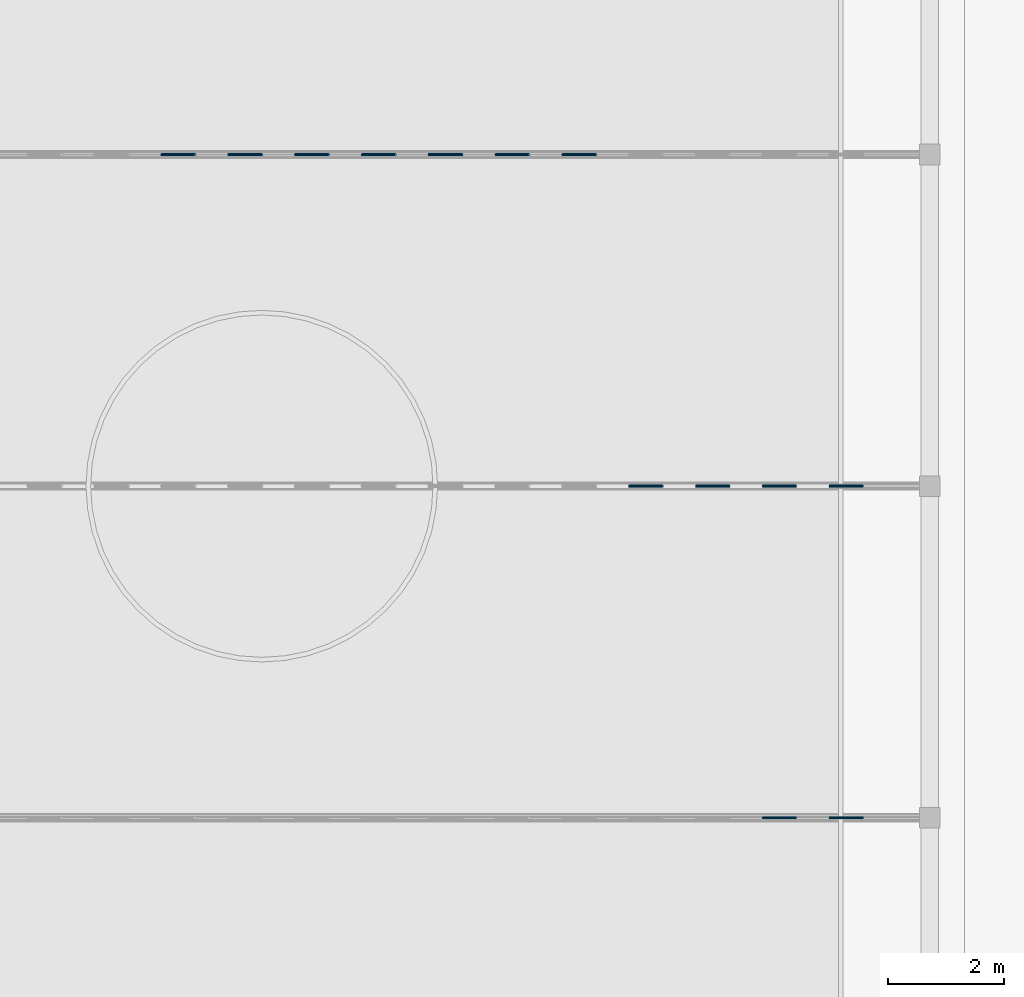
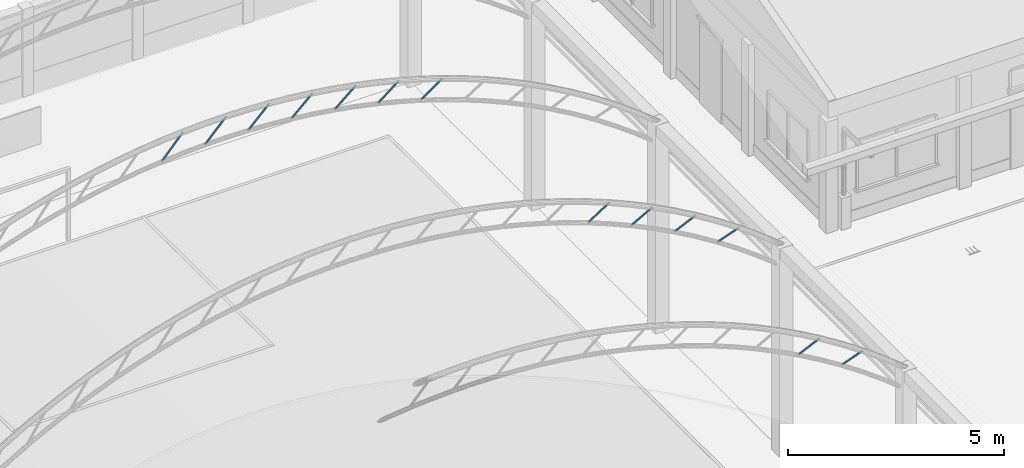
# One storey, part 28 of 166: 13 beams.
"""IFC2X3 building model written with IfcOpenShell, lengths in metres."""

from ifc_helpers import new_model, si_unit, origin, origin_with_axes, place, context, subcontext, project, spatial, faceted_brep, element, save


model = new_model("IFC2X3")

# Units and contexts
model_context = context("Model", 3, precision=1e-05, world=origin_with_axes())
body_context = subcontext(model_context, "Body", "Model", "MODEL_VIEW")
ifc_project = project(units=[si_unit("LENGTHUNIT", "METRE"), si_unit("AREAUNIT", "SQUARE_METRE"), si_unit("VOLUMEUNIT", "CUBIC_METRE"), si_unit("PLANEANGLEUNIT", "RADIAN")], contexts=[model_context])

# Site, building, storey
site_placement = place(None, origin_with_axes())
site = spatial("IfcSite", under=ifc_project, at=site_placement, Name="Predio Los Mangos - Morales, San Martín", CompositionType="ELEMENT")
building_placement = place(site_placement, origin())
building = spatial("IfcBuilding", under=site, at=building_placement, Name="Hogar de Refugio Temporal", CompositionType="ELEMENT")
storey_placement = place(building_placement, origin())
storey = spatial("IfcBuildingStorey", under=building, at=storey_placement, Name="NIVEL 1 (NPT +0.00)", CompositionType="ELEMENT", Elevation=0.0)

# Beams
beam_1_placement = place(storey_placement, origin())
element("IfcBeam", 1, at=beam_1_placement, inside=storey, Name="diag", ObjectType="Viga", context=body_context, shape_type="Brep", body=[
    faceted_brep([(23.7072, 104.0883, 7.3372), (24.2847, 104.0883, 7.6056), (24.29, 104.0917, 7.5943), (23.7125, 104.0917, 7.3259), (23.7034, 104.0792, 7.3455), (24.2809, 104.0792, 7.6139), (23.702, 104.0667, 7.3485), (24.2795, 104.0667, 7.617), (23.7034, 104.0542, 7.3455), (24.2809, 104.0542, 7.6139), (23.7072, 104.045, 7.3372), (24.2847, 104.045, 7.6056), (23.7125, 104.0417, 7.3259), (24.29, 104.0417, 7.5943), (23.7178, 104.045, 7.3145), (24.2953, 104.045, 7.583), (23.7216, 104.0542, 7.3062), (24.2991, 104.0542, 7.5747), (23.723, 104.0667, 7.3032), (24.3005, 104.0667, 7.5716), (23.7216, 104.0792, 7.3062), (24.2991, 104.0792, 7.5747), (23.7178, 104.0883, 7.3145), (24.2953, 104.0883, 7.583), (23.7116, 104.0704, 7.3278), (23.7125, 104.071, 7.3259), (24.29, 104.071, 7.5943), (24.2891, 104.0704, 7.5963), (23.7109, 104.0688, 7.3292), (24.2884, 104.0688, 7.5977), (23.7107, 104.0667, 7.3298), (24.2882, 104.0667, 7.5982), (23.7109, 104.0645, 7.3292), (24.2884, 104.0645, 7.5977), (23.7116, 104.0629, 7.3278), (24.2891, 104.0629, 7.5963), (23.7125, 104.0624, 7.3259), (24.29, 104.0624, 7.5943), (23.7134, 104.0629, 7.3239), (24.2909, 104.0629, 7.5924), (23.7141, 104.0645, 7.3225), (24.2916, 104.0645, 7.5909), (23.7143, 104.0667, 7.322), (24.2918, 104.0667, 7.5904), (23.7141, 104.0688, 7.3225), (24.2916, 104.0688, 7.5909), (23.7134, 104.0704, 7.3239), (24.2909, 104.0704, 7.5924)], [[[0, 1, 2, 3]], [[4, 5, 1, 0]], [[6, 7, 5, 4]], [[8, 9, 7, 6]], [[10, 11, 9, 8]], [[12, 13, 11, 10]], [[14, 15, 13, 12]], [[16, 17, 15, 14]], [[18, 19, 17, 16]], [[20, 21, 19, 18]], [[22, 23, 21, 20]], [[3, 2, 23, 22]], [[24, 25, 26, 27]], [[28, 24, 27, 29]], [[30, 28, 29, 31]], [[32, 30, 31, 33]], [[34, 32, 33, 35]], [[36, 34, 35, 37]], [[38, 36, 37, 39]], [[40, 38, 39, 41]], [[42, 40, 41, 43]], [[44, 42, 43, 45]], [[46, 44, 45, 47]], [[25, 46, 47, 26]], [[3, 22, 46, 25]], [[7, 9, 33, 31]], [[17, 19, 43, 41]], [[23, 2, 26, 47]], [[10, 8, 32, 34]], [[20, 18, 42, 44]], [[1, 5, 29, 27]], [[13, 15, 39, 37]], [[6, 4, 28, 30]], [[16, 14, 38, 40]], [[0, 3, 25, 24]], [[9, 11, 35, 33]], [[19, 21, 45, 43]], [[12, 10, 34, 36]], [[22, 20, 44, 46]], [[5, 7, 31, 29]], [[15, 17, 41, 39]], [[2, 1, 27, 26]], [[8, 6, 30, 32]], [[18, 16, 40, 42]], [[11, 13, 37, 35]], [[21, 23, 47, 45]], [[4, 0, 24, 28]], [[14, 12, 36, 38]]]),
])
beam_2_placement = place(storey_placement, origin())
element("IfcBeam", 2, at=beam_2_placement, inside=storey, Name="diag", ObjectType="Viga", context=body_context, shape_type="Brep", body=[
    faceted_brep([(24.8633, 104.0883, 6.6451), (25.4408, 104.0883, 6.8526), (25.445, 104.0917, 6.8408), (24.8675, 104.0917, 6.6333), (24.8602, 104.0792, 6.6537), (25.4377, 104.0792, 6.8612), (24.859, 104.0667, 6.6569), (25.4365, 104.0667, 6.8643), (24.8602, 104.0542, 6.6537), (25.4377, 104.0542, 6.8612), (24.8633, 104.045, 6.6451), (25.4408, 104.045, 6.8526), (24.8675, 104.0417, 6.6333), (25.445, 104.0417, 6.8408), (24.8717, 104.045, 6.6216), (25.4492, 104.045, 6.829), (24.8748, 104.0542, 6.613), (25.4523, 104.0542, 6.8204), (24.876, 104.0667, 6.6098), (25.4535, 104.0667, 6.8173), (24.8748, 104.0792, 6.613), (25.4523, 104.0792, 6.8204), (24.8717, 104.0883, 6.6216), (25.4492, 104.0883, 6.829), (24.8668, 104.0704, 6.6354), (24.8675, 104.071, 6.6333), (25.445, 104.071, 6.8408), (25.4443, 104.0704, 6.8428), (24.8662, 104.0688, 6.6368), (25.4437, 104.0688, 6.8443), (24.866, 104.0667, 6.6374), (25.4435, 104.0667, 6.8449), (24.8662, 104.0645, 6.6368), (25.4437, 104.0645, 6.8443), (24.8668, 104.0629, 6.6354), (25.4443, 104.0629, 6.8428), (24.8675, 104.0624, 6.6333), (25.445, 104.0624, 6.8408), (24.8682, 104.0629, 6.6313), (25.4457, 104.0629, 6.8388), (24.8688, 104.0645, 6.6298), (25.4463, 104.0645, 6.8373), (24.869, 104.0667, 6.6293), (25.4465, 104.0667, 6.8368), (24.8688, 104.0688, 6.6298), (25.4463, 104.0688, 6.8373), (24.8682, 104.0704, 6.6313), (25.4457, 104.0704, 6.8388)], [[[0, 1, 2, 3]], [[4, 5, 1, 0]], [[6, 7, 5, 4]], [[8, 9, 7, 6]], [[10, 11, 9, 8]], [[12, 13, 11, 10]], [[14, 15, 13, 12]], [[16, 17, 15, 14]], [[18, 19, 17, 16]], [[20, 21, 19, 18]], [[22, 23, 21, 20]], [[3, 2, 23, 22]], [[24, 25, 26, 27]], [[28, 24, 27, 29]], [[30, 28, 29, 31]], [[32, 30, 31, 33]], [[34, 32, 33, 35]], [[36, 34, 35, 37]], [[38, 36, 37, 39]], [[40, 38, 39, 41]], [[42, 40, 41, 43]], [[44, 42, 43, 45]], [[46, 44, 45, 47]], [[25, 46, 47, 26]], [[8, 6, 30, 32]], [[18, 16, 40, 42]], [[11, 13, 37, 35]], [[21, 23, 47, 45]], [[4, 0, 24, 28]], [[14, 12, 36, 38]], [[3, 22, 46, 25]], [[7, 9, 33, 31]], [[17, 19, 43, 41]], [[23, 2, 26, 47]], [[10, 8, 32, 34]], [[20, 18, 42, 44]], [[1, 5, 29, 27]], [[13, 15, 39, 37]], [[6, 4, 28, 30]], [[16, 14, 38, 40]], [[0, 3, 25, 24]], [[9, 11, 35, 33]], [[19, 21, 45, 43]], [[12, 10, 34, 36]], [[22, 20, 44, 46]], [[5, 7, 31, 29]], [[15, 17, 41, 39]], [[2, 1, 27, 26]]]),
])
beam_3_placement = place(storey_placement, origin())
element("IfcBeam", 3, at=beam_3_placement, inside=storey, Name="diag", ObjectType="Viga", context=body_context, shape_type="Brep", body=[
    faceted_brep([(21.3958, 109.8217, 8.401), (21.9733, 109.8217, 8.7715), (21.98, 109.825, 8.7609), (21.4025, 109.825, 8.3905), (21.3908, 109.8125, 8.4087), (21.9683, 109.8125, 8.7792), (21.389, 109.8, 8.4115), (21.9665, 109.8, 8.782), (21.3908, 109.7875, 8.4087), (21.9683, 109.7875, 8.7792), (21.3958, 109.7784, 8.401), (21.9733, 109.7784, 8.7715), (21.4025, 109.775, 8.3905), (21.98, 109.775, 8.7609), (21.4092, 109.7784, 8.38), (21.9867, 109.7784, 8.7504), (21.4142, 109.7875, 8.3723), (21.9917, 109.7875, 8.7427), (21.416, 109.8, 8.3695), (21.9935, 109.8, 8.7399), (21.4142, 109.8125, 8.3723), (21.9917, 109.8125, 8.7427), (21.4092, 109.8217, 8.38), (21.9867, 109.8217, 8.7504), (21.4013, 109.8037, 8.3923), (21.4025, 109.8043, 8.3905), (21.98, 109.8043, 8.7609), (21.9788, 109.8037, 8.7627), (21.4005, 109.8021, 8.3936), (21.978, 109.8021, 8.7641), (21.4002, 109.8, 8.3941), (21.9777, 109.8, 8.7645), (21.4005, 109.7979, 8.3936), (21.978, 109.7979, 8.7641), (21.4013, 109.7963, 8.3923), (21.9788, 109.7963, 8.7627), (21.4025, 109.7957, 8.3905), (21.98, 109.7957, 8.7609), (21.4037, 109.7963, 8.3887), (21.9812, 109.7963, 8.7591), (21.4045, 109.7979, 8.3874), (21.982, 109.7979, 8.7578), (21.4048, 109.8, 8.3869), (21.9823, 109.8, 8.7573), (21.4045, 109.8021, 8.3874), (21.982, 109.8021, 8.7578), (21.4037, 109.8037, 8.3887), (21.9812, 109.8037, 8.7591)], [[[0, 1, 2, 3]], [[4, 5, 1, 0]], [[6, 7, 5, 4]], [[8, 9, 7, 6]], [[10, 11, 9, 8]], [[12, 13, 11, 10]], [[14, 15, 13, 12]], [[16, 17, 15, 14]], [[18, 19, 17, 16]], [[20, 21, 19, 18]], [[22, 23, 21, 20]], [[3, 2, 23, 22]], [[24, 25, 26, 27]], [[28, 24, 27, 29]], [[30, 28, 29, 31]], [[32, 30, 31, 33]], [[34, 32, 33, 35]], [[36, 34, 35, 37]], [[38, 36, 37, 39]], [[40, 38, 39, 41]], [[42, 40, 41, 43]], [[44, 42, 43, 45]], [[46, 44, 45, 47]], [[25, 46, 47, 26]], [[11, 13, 37, 35]], [[21, 23, 47, 45]], [[4, 0, 24, 28]], [[14, 12, 36, 38]], [[3, 22, 46, 25]], [[7, 9, 33, 31]], [[17, 19, 43, 41]], [[23, 2, 26, 47]], [[10, 8, 32, 34]], [[20, 18, 42, 44]], [[1, 5, 29, 27]], [[13, 15, 39, 37]], [[6, 4, 28, 30]], [[16, 14, 38, 40]], [[0, 3, 25, 24]], [[9, 11, 35, 33]], [[19, 21, 45, 43]], [[12, 10, 34, 36]], [[22, 20, 44, 46]], [[5, 7, 31, 29]], [[15, 17, 41, 39]], [[2, 1, 27, 26]], [[8, 6, 30, 32]], [[18, 16, 40, 42]]]),
])
beam_4_placement = place(storey_placement, origin())
element("IfcBeam", 4, at=beam_4_placement, inside=storey, Name="diag", ObjectType="Viga", context=body_context, shape_type="Brep", body=[
    faceted_brep([(22.5514, 109.8217, 7.9187), (23.1289, 109.8217, 8.2407), (23.135, 109.825, 8.2298), (22.5575, 109.825, 7.9077), (22.547, 109.8125, 7.9267), (23.1245, 109.8125, 8.2487), (22.5453, 109.8, 7.9296), (23.1228, 109.8, 8.2517), (22.547, 109.7875, 7.9267), (23.1245, 109.7875, 8.2487), (22.5514, 109.7784, 7.9187), (23.1289, 109.7784, 8.2407), (22.5575, 109.775, 7.9077), (23.135, 109.775, 8.2298), (22.5636, 109.7784, 7.8968), (23.1411, 109.7784, 8.2189), (22.568, 109.7875, 7.8888), (23.1455, 109.7875, 8.2109), (22.5697, 109.8, 7.8859), (23.1472, 109.8, 8.208), (22.568, 109.8125, 7.8888), (23.1455, 109.8125, 8.2109), (22.5636, 109.8217, 7.8968), (23.1411, 109.8217, 8.2189), (22.5565, 109.8037, 7.9096), (22.5575, 109.8043, 7.9077), (23.135, 109.8043, 8.2298), (23.134, 109.8037, 8.2317), (22.5557, 109.8021, 7.911), (23.1332, 109.8021, 8.2331), (22.5554, 109.8, 7.9115), (23.1329, 109.8, 8.2336), (22.5557, 109.7979, 7.911), (23.1332, 109.7979, 8.2331), (22.5565, 109.7963, 7.9096), (23.134, 109.7963, 8.2317), (22.5575, 109.7957, 7.9077), (23.135, 109.7957, 8.2298), (22.5585, 109.7963, 7.9059), (23.136, 109.7963, 8.228), (22.5593, 109.7979, 7.9045), (23.1368, 109.7979, 8.2266), (22.5596, 109.8, 7.904), (23.1371, 109.8, 8.2261), (22.5593, 109.8021, 7.9045), (23.1368, 109.8021, 8.2266), (22.5585, 109.8037, 7.9059), (23.136, 109.8037, 8.228)], [[[0, 1, 2, 3]], [[4, 5, 1, 0]], [[6, 7, 5, 4]], [[8, 9, 7, 6]], [[10, 11, 9, 8]], [[12, 13, 11, 10]], [[14, 15, 13, 12]], [[16, 17, 15, 14]], [[18, 19, 17, 16]], [[20, 21, 19, 18]], [[22, 23, 21, 20]], [[3, 2, 23, 22]], [[24, 25, 26, 27]], [[28, 24, 27, 29]], [[30, 28, 29, 31]], [[32, 30, 31, 33]], [[34, 32, 33, 35]], [[36, 34, 35, 37]], [[38, 36, 37, 39]], [[40, 38, 39, 41]], [[42, 40, 41, 43]], [[44, 42, 43, 45]], [[46, 44, 45, 47]], [[25, 46, 47, 26]], [[11, 13, 37, 35]], [[21, 23, 47, 45]], [[4, 0, 24, 28]], [[14, 12, 36, 38]], [[3, 22, 46, 25]], [[7, 9, 33, 31]], [[17, 19, 43, 41]], [[23, 2, 26, 47]], [[10, 8, 32, 34]], [[20, 18, 42, 44]], [[1, 5, 29, 27]], [[13, 15, 39, 37]], [[6, 4, 28, 30]], [[16, 14, 38, 40]], [[0, 3, 25, 24]], [[9, 11, 35, 33]], [[19, 21, 45, 43]], [[12, 10, 34, 36]], [[22, 20, 44, 46]], [[5, 7, 31, 29]], [[15, 17, 41, 39]], [[2, 1, 27, 26]], [[8, 6, 30, 32]], [[18, 16, 40, 42]]]),
])
beam_5_placement = place(storey_placement, origin())
element("IfcBeam", 5, at=beam_5_placement, inside=storey, Name="diag", ObjectType="Viga", context=body_context, shape_type="Brep", body=[
    faceted_brep([(23.7072, 109.8217, 7.3372), (24.2847, 109.8217, 7.6056), (24.29, 109.825, 7.5943), (23.7125, 109.825, 7.3259), (23.7034, 109.8125, 7.3455), (24.2809, 109.8125, 7.6139), (23.702, 109.8, 7.3485), (24.2795, 109.8, 7.617), (23.7034, 109.7875, 7.3455), (24.2809, 109.7875, 7.6139), (23.7072, 109.7784, 7.3372), (24.2847, 109.7784, 7.6056), (23.7125, 109.775, 7.3259), (24.29, 109.775, 7.5943), (23.7178, 109.7784, 7.3145), (24.2953, 109.7784, 7.583), (23.7216, 109.7875, 7.3062), (24.2991, 109.7875, 7.5747), (23.723, 109.8, 7.3032), (24.3005, 109.8, 7.5716), (23.7216, 109.8125, 7.3062), (24.2991, 109.8125, 7.5747), (23.7178, 109.8217, 7.3145), (24.2953, 109.8217, 7.583), (23.7116, 109.8037, 7.3278), (23.7125, 109.8043, 7.3259), (24.29, 109.8043, 7.5943), (24.2891, 109.8037, 7.5963), (23.7109, 109.8021, 7.3292), (24.2884, 109.8021, 7.5977), (23.7107, 109.8, 7.3298), (24.2882, 109.8, 7.5982), (23.7109, 109.7979, 7.3292), (24.2884, 109.7979, 7.5977), (23.7116, 109.7963, 7.3278), (24.2891, 109.7963, 7.5963), (23.7125, 109.7957, 7.3259), (24.29, 109.7957, 7.5943), (23.7134, 109.7963, 7.3239), (24.2909, 109.7963, 7.5924), (23.7141, 109.7979, 7.3225), (24.2916, 109.7979, 7.5909), (23.7143, 109.8, 7.322), (24.2918, 109.8, 7.5904), (23.7141, 109.8021, 7.3225), (24.2916, 109.8021, 7.5909), (23.7134, 109.8037, 7.3239), (24.2909, 109.8037, 7.5924)], [[[0, 1, 2, 3]], [[4, 5, 1, 0]], [[6, 7, 5, 4]], [[8, 9, 7, 6]], [[10, 11, 9, 8]], [[12, 13, 11, 10]], [[14, 15, 13, 12]], [[16, 17, 15, 14]], [[18, 19, 17, 16]], [[20, 21, 19, 18]], [[22, 23, 21, 20]], [[3, 2, 23, 22]], [[24, 25, 26, 27]], [[28, 24, 27, 29]], [[30, 28, 29, 31]], [[32, 30, 31, 33]], [[34, 32, 33, 35]], [[36, 34, 35, 37]], [[38, 36, 37, 39]], [[40, 38, 39, 41]], [[42, 40, 41, 43]], [[44, 42, 43, 45]], [[46, 44, 45, 47]], [[25, 46, 47, 26]], [[11, 13, 37, 35]], [[21, 23, 47, 45]], [[4, 0, 24, 28]], [[14, 12, 36, 38]], [[3, 22, 46, 25]], [[7, 9, 33, 31]], [[17, 19, 43, 41]], [[23, 2, 26, 47]], [[10, 8, 32, 34]], [[20, 18, 42, 44]], [[1, 5, 29, 27]], [[13, 15, 39, 37]], [[6, 4, 28, 30]], [[16, 14, 38, 40]], [[0, 3, 25, 24]], [[9, 11, 35, 33]], [[19, 21, 45, 43]], [[12, 10, 34, 36]], [[22, 20, 44, 46]], [[5, 7, 31, 29]], [[15, 17, 41, 39]], [[2, 1, 27, 26]], [[8, 6, 30, 32]], [[18, 16, 40, 42]]]),
])
beam_6_placement = place(storey_placement, origin())
element("IfcBeam", 6, at=beam_6_placement, inside=storey, Name="diag", ObjectType="Viga", context=body_context, shape_type="Brep", body=[
    faceted_brep([(24.8633, 109.8217, 6.6451), (25.4408, 109.8217, 6.8526), (25.445, 109.825, 6.8408), (24.8675, 109.825, 6.6333), (24.8602, 109.8125, 6.6537), (25.4377, 109.8125, 6.8612), (24.859, 109.8, 6.6569), (25.4365, 109.8, 6.8643), (24.8602, 109.7875, 6.6537), (25.4377, 109.7875, 6.8612), (24.8633, 109.7784, 6.6451), (25.4408, 109.7784, 6.8526), (24.8675, 109.775, 6.6333), (25.445, 109.775, 6.8408), (24.8717, 109.7784, 6.6216), (25.4492, 109.7784, 6.829), (24.8748, 109.7875, 6.613), (25.4523, 109.7875, 6.8204), (24.876, 109.8, 6.6098), (25.4535, 109.8, 6.8173), (24.8748, 109.8125, 6.613), (25.4523, 109.8125, 6.8204), (24.8717, 109.8217, 6.6216), (25.4492, 109.8217, 6.829), (24.8668, 109.8037, 6.6354), (24.8675, 109.8043, 6.6333), (25.445, 109.8043, 6.8408), (25.4443, 109.8037, 6.8428), (24.8662, 109.8021, 6.6368), (25.4437, 109.8021, 6.8443), (24.866, 109.8, 6.6374), (25.4435, 109.8, 6.8449), (24.8662, 109.7979, 6.6368), (25.4437, 109.7979, 6.8443), (24.8668, 109.7963, 6.6354), (25.4443, 109.7963, 6.8428), (24.8675, 109.7957, 6.6333), (25.445, 109.7957, 6.8408), (24.8682, 109.7963, 6.6313), (25.4457, 109.7963, 6.8388), (24.8688, 109.7979, 6.6298), (25.4463, 109.7979, 6.8373), (24.869, 109.8, 6.6293), (25.4465, 109.8, 6.8368), (24.8688, 109.8021, 6.6298), (25.4463, 109.8021, 6.8373), (24.8682, 109.8037, 6.6313), (25.4457, 109.8037, 6.8388)], [[[0, 1, 2, 3]], [[4, 5, 1, 0]], [[6, 7, 5, 4]], [[8, 9, 7, 6]], [[10, 11, 9, 8]], [[12, 13, 11, 10]], [[14, 15, 13, 12]], [[16, 17, 15, 14]], [[18, 19, 17, 16]], [[20, 21, 19, 18]], [[22, 23, 21, 20]], [[3, 2, 23, 22]], [[24, 25, 26, 27]], [[28, 24, 27, 29]], [[30, 28, 29, 31]], [[32, 30, 31, 33]], [[34, 32, 33, 35]], [[36, 34, 35, 37]], [[38, 36, 37, 39]], [[40, 38, 39, 41]], [[42, 40, 41, 43]], [[44, 42, 43, 45]], [[46, 44, 45, 47]], [[25, 46, 47, 26]], [[7, 9, 33, 31]], [[17, 19, 43, 41]], [[23, 2, 26, 47]], [[10, 8, 32, 34]], [[20, 18, 42, 44]], [[1, 5, 29, 27]], [[13, 15, 39, 37]], [[6, 4, 28, 30]], [[16, 14, 38, 40]], [[0, 3, 25, 24]], [[9, 11, 35, 33]], [[19, 21, 45, 43]], [[12, 10, 34, 36]], [[22, 20, 44, 46]], [[5, 7, 31, 29]], [[15, 17, 41, 39]], [[2, 1, 27, 26]], [[8, 6, 30, 32]], [[18, 16, 40, 42]], [[11, 13, 37, 35]], [[21, 23, 47, 45]], [[4, 0, 24, 28]], [[14, 12, 36, 38]], [[3, 22, 46, 25]]]),
])
beam_7_placement = place(storey_placement, origin())
element("IfcBeam", 7, at=beam_7_placement, inside=storey, Name="diag", ObjectType="Viga", context=body_context, shape_type="Brep", body=[
    faceted_brep([(13.3082, 115.555, 9.4747), (13.8857, 115.555, 10.1212), (13.895, 115.5583, 10.1129), (13.3175, 115.5583, 9.4663), (13.3014, 115.5458, 9.4808), (13.8789, 115.5458, 10.1273), (13.2989, 115.5333, 9.483), (13.8764, 115.5333, 10.1295), (13.3014, 115.5208, 9.4808), (13.8789, 115.5208, 10.1273), (13.3082, 115.5117, 9.4747), (13.8857, 115.5117, 10.1212), (13.3175, 115.5083, 9.4663), (13.895, 115.5083, 10.1129), (13.3268, 115.5117, 9.458), (13.9043, 115.5117, 10.1045), (13.3336, 115.5208, 9.4519), (13.9111, 115.5208, 10.0984), (13.3361, 115.5333, 9.4497), (13.9136, 115.5333, 10.0962), (13.3336, 115.5458, 9.4519), (13.9111, 115.5458, 10.0984), (13.3268, 115.555, 9.458), (13.9043, 115.555, 10.1045), (13.3159, 115.5371, 9.4678), (13.3175, 115.5376, 9.4663), (13.895, 115.5376, 10.1129), (13.8934, 115.5371, 10.1143), (13.3147, 115.5355, 9.4688), (13.8922, 115.5355, 10.1153), (13.3143, 115.5333, 9.4692), (13.8918, 115.5333, 10.1157), (13.3147, 115.5312, 9.4688), (13.8922, 115.5312, 10.1153), (13.3159, 115.5296, 9.4678), (13.8934, 115.5296, 10.1143), (13.3175, 115.529, 9.4663), (13.895, 115.529, 10.1129), (13.3191, 115.5296, 9.4649), (13.8966, 115.5296, 10.1114), (13.3203, 115.5312, 9.4639), (13.8978, 115.5312, 10.1104), (13.3207, 115.5333, 9.4635), (13.8982, 115.5333, 10.11), (13.3203, 115.5355, 9.4639), (13.8978, 115.5355, 10.1104), (13.3191, 115.5371, 9.4649), (13.8966, 115.5371, 10.1114)], [[[0, 1, 2, 3]], [[4, 5, 1, 0]], [[6, 7, 5, 4]], [[8, 9, 7, 6]], [[10, 11, 9, 8]], [[12, 13, 11, 10]], [[14, 15, 13, 12]], [[16, 17, 15, 14]], [[18, 19, 17, 16]], [[20, 21, 19, 18]], [[22, 23, 21, 20]], [[3, 2, 23, 22]], [[24, 25, 26, 27]], [[28, 24, 27, 29]], [[30, 28, 29, 31]], [[32, 30, 31, 33]], [[34, 32, 33, 35]], [[36, 34, 35, 37]], [[38, 36, 37, 39]], [[40, 38, 39, 41]], [[42, 40, 41, 43]], [[44, 42, 43, 45]], [[46, 44, 45, 47]], [[25, 46, 47, 26]], [[18, 16, 40, 42]], [[11, 13, 37, 35]], [[21, 23, 47, 45]], [[4, 0, 24, 28]], [[14, 12, 36, 38]], [[3, 22, 46, 25]], [[7, 9, 33, 31]], [[17, 19, 43, 41]], [[23, 2, 26, 47]], [[10, 8, 32, 34]], [[20, 18, 42, 44]], [[1, 5, 29, 27]], [[13, 15, 39, 37]], [[6, 4, 28, 30]], [[16, 14, 38, 40]], [[0, 3, 25, 24]], [[9, 11, 35, 33]], [[19, 21, 45, 43]], [[12, 10, 34, 36]], [[22, 20, 44, 46]], [[5, 7, 31, 29]], [[15, 17, 41, 39]], [[2, 1, 27, 26]], [[8, 6, 30, 32]]]),
])
beam_8_placement = place(storey_placement, origin())
element("IfcBeam", 8, at=beam_8_placement, inside=storey, Name="diag", ObjectType="Viga", context=body_context, shape_type="Brep", body=[
    faceted_brep([(14.4634, 115.555, 9.5493), (15.0409, 115.555, 10.1586), (15.05, 115.5583, 10.15), (14.4725, 115.5583, 9.5407), (14.4568, 115.5458, 9.5556), (15.0343, 115.5458, 10.1649), (14.4544, 115.5333, 9.5579), (15.0319, 115.5333, 10.1672), (14.4568, 115.5208, 9.5556), (15.0343, 115.5208, 10.1649), (14.4634, 115.5117, 9.5493), (15.0409, 115.5117, 10.1586), (14.4725, 115.5083, 9.5407), (15.05, 115.5083, 10.15), (14.4816, 115.5117, 9.5321), (15.0591, 115.5117, 10.1414), (14.4882, 115.5208, 9.5258), (15.0657, 115.5208, 10.1351), (14.4906, 115.5333, 9.5235), (15.0681, 115.5333, 10.1328), (14.4882, 115.5458, 9.5258), (15.0657, 115.5458, 10.1351), (14.4816, 115.555, 9.5321), (15.0591, 115.555, 10.1414), (14.4709, 115.5371, 9.5422), (14.4725, 115.5376, 9.5407), (15.05, 115.5376, 10.15), (15.0484, 115.5371, 10.1515), (14.4698, 115.5355, 9.5433), (15.0473, 115.5355, 10.1526), (14.4694, 115.5333, 9.5437), (15.0469, 115.5333, 10.153), (14.4698, 115.5312, 9.5433), (15.0473, 115.5312, 10.1526), (14.4709, 115.5296, 9.5422), (15.0484, 115.5296, 10.1515), (14.4725, 115.529, 9.5407), (15.05, 115.529, 10.15), (14.4741, 115.5296, 9.5392), (15.0516, 115.5296, 10.1485), (14.4752, 115.5312, 9.5382), (15.0527, 115.5312, 10.1474), (14.4756, 115.5333, 9.5378), (15.0531, 115.5333, 10.147), (14.4752, 115.5355, 9.5382), (15.0527, 115.5355, 10.1474), (14.4741, 115.5371, 9.5392), (15.0516, 115.5371, 10.1485)], [[[0, 1, 2, 3]], [[4, 5, 1, 0]], [[6, 7, 5, 4]], [[8, 9, 7, 6]], [[10, 11, 9, 8]], [[12, 13, 11, 10]], [[14, 15, 13, 12]], [[16, 17, 15, 14]], [[18, 19, 17, 16]], [[20, 21, 19, 18]], [[22, 23, 21, 20]], [[3, 2, 23, 22]], [[24, 25, 26, 27]], [[28, 24, 27, 29]], [[30, 28, 29, 31]], [[32, 30, 31, 33]], [[34, 32, 33, 35]], [[36, 34, 35, 37]], [[38, 36, 37, 39]], [[40, 38, 39, 41]], [[42, 40, 41, 43]], [[44, 42, 43, 45]], [[46, 44, 45, 47]], [[25, 46, 47, 26]], [[18, 16, 40, 42]], [[11, 13, 37, 35]], [[21, 23, 47, 45]], [[4, 0, 24, 28]], [[14, 12, 36, 38]], [[3, 22, 46, 25]], [[7, 9, 33, 31]], [[17, 19, 43, 41]], [[23, 2, 26, 47]], [[10, 8, 32, 34]], [[20, 18, 42, 44]], [[1, 5, 29, 27]], [[13, 15, 39, 37]], [[6, 4, 28, 30]], [[16, 14, 38, 40]], [[0, 3, 25, 24]], [[9, 11, 35, 33]], [[19, 21, 45, 43]], [[12, 10, 34, 36]], [[22, 20, 44, 46]], [[5, 7, 31, 29]], [[15, 17, 41, 39]], [[2, 1, 27, 26]], [[8, 6, 30, 32]]]),
])
beam_9_placement = place(storey_placement, origin())
element("IfcBeam", 9, at=beam_9_placement, inside=storey, Name="diag", ObjectType="Viga", context=body_context, shape_type="Brep", body=[
    faceted_brep([(15.6187, 115.555, 9.5496), (16.1962, 115.555, 10.1217), (16.205, 115.5583, 10.1129), (15.6275, 115.5583, 9.5407), (15.6123, 115.5458, 9.5561), (16.1898, 115.5458, 10.1282), (15.6099, 115.5333, 9.5585), (16.1874, 115.5333, 10.1306), (15.6123, 115.5208, 9.5561), (16.1898, 115.5208, 10.1282), (15.6187, 115.5117, 9.5496), (16.1962, 115.5117, 10.1217), (15.6275, 115.5083, 9.5407), (16.205, 115.5083, 10.1129), (15.6363, 115.5117, 9.5318), (16.2138, 115.5117, 10.104), (15.6427, 115.5208, 9.5253), (16.2202, 115.5208, 10.0975), (15.6451, 115.5333, 9.523), (16.2226, 115.5333, 10.0951), (15.6427, 115.5458, 9.5253), (16.2202, 115.5458, 10.0975), (15.6363, 115.555, 9.5318), (16.2138, 115.555, 10.104), (15.626, 115.5371, 9.5422), (15.6275, 115.5376, 9.5407), (16.205, 115.5376, 10.1129), (16.2035, 115.5371, 10.1144), (15.6249, 115.5355, 9.5434), (16.2024, 115.5355, 10.1155), (15.6245, 115.5333, 9.5438), (16.202, 115.5333, 10.1159), (15.6249, 115.5312, 9.5434), (16.2024, 115.5312, 10.1155), (15.626, 115.5296, 9.5422), (16.2035, 115.5296, 10.1144), (15.6275, 115.529, 9.5407), (16.205, 115.529, 10.1129), (15.629, 115.5296, 9.5392), (16.2065, 115.5296, 10.1113), (15.6301, 115.5312, 9.5381), (16.2076, 115.5312, 10.1102), (15.6305, 115.5333, 9.5377), (16.208, 115.5333, 10.1098), (15.6301, 115.5355, 9.5381), (16.2076, 115.5355, 10.1102), (15.629, 115.5371, 9.5392), (16.2065, 115.5371, 10.1113)], [[[0, 1, 2, 3]], [[4, 5, 1, 0]], [[6, 7, 5, 4]], [[8, 9, 7, 6]], [[10, 11, 9, 8]], [[12, 13, 11, 10]], [[14, 15, 13, 12]], [[16, 17, 15, 14]], [[18, 19, 17, 16]], [[20, 21, 19, 18]], [[22, 23, 21, 20]], [[3, 2, 23, 22]], [[24, 25, 26, 27]], [[28, 24, 27, 29]], [[30, 28, 29, 31]], [[32, 30, 31, 33]], [[34, 32, 33, 35]], [[36, 34, 35, 37]], [[38, 36, 37, 39]], [[40, 38, 39, 41]], [[42, 40, 41, 43]], [[44, 42, 43, 45]], [[46, 44, 45, 47]], [[25, 46, 47, 26]], [[18, 16, 40, 42]], [[11, 13, 37, 35]], [[21, 23, 47, 45]], [[4, 0, 24, 28]], [[14, 12, 36, 38]], [[3, 22, 46, 25]], [[7, 9, 33, 31]], [[17, 19, 43, 41]], [[23, 2, 26, 47]], [[10, 8, 32, 34]], [[20, 18, 42, 44]], [[1, 5, 29, 27]], [[13, 15, 39, 37]], [[6, 4, 28, 30]], [[16, 14, 38, 40]], [[0, 3, 25, 24]], [[9, 11, 35, 33]], [[19, 21, 45, 43]], [[12, 10, 34, 36]], [[22, 20, 44, 46]], [[5, 7, 31, 29]], [[15, 17, 41, 39]], [[2, 1, 27, 26]], [[8, 6, 30, 32]]]),
])
beam_10_placement = place(storey_placement, origin())
element("IfcBeam", 10, at=beam_10_placement, inside=storey, Name="diag", ObjectType="Viga", context=body_context, shape_type="Brep", body=[
    faceted_brep([(16.774, 115.555, 9.4755), (17.3515, 115.555, 10.0102), (17.36, 115.5583, 10.001), (16.7825, 115.5583, 9.4663), (16.7678, 115.5458, 9.4822), (17.3453, 115.5458, 10.0169), (16.7655, 115.5333, 9.4847), (17.343, 115.5333, 10.0193), (16.7678, 115.5208, 9.4822), (17.3453, 115.5208, 10.0169), (16.774, 115.5117, 9.4755), (17.3515, 115.5117, 10.0102), (16.7825, 115.5083, 9.4663), (17.36, 115.5083, 10.001), (16.791, 115.5117, 9.4572), (17.3685, 115.5117, 9.9918), (16.7972, 115.5208, 9.4505), (17.3747, 115.5208, 9.9851), (16.7995, 115.5333, 9.448), (17.377, 115.5333, 9.9827), (16.7972, 115.5458, 9.4505), (17.3747, 115.5458, 9.9851), (16.791, 115.555, 9.4572), (17.3685, 115.555, 9.9918), (16.781, 115.5371, 9.4679), (16.7825, 115.5376, 9.4663), (17.36, 115.5376, 10.001), (17.3585, 115.5371, 10.0026), (16.78, 115.5355, 9.4691), (17.3575, 115.5355, 10.0037), (16.7796, 115.5333, 9.4695), (17.3571, 115.5333, 10.0042), (16.78, 115.5312, 9.4691), (17.3575, 115.5312, 10.0037), (16.781, 115.5296, 9.4679), (17.3585, 115.5296, 10.0026), (16.7825, 115.529, 9.4663), (17.36, 115.529, 10.001), (16.784, 115.5296, 9.4648), (17.3615, 115.5296, 9.9994), (16.785, 115.5312, 9.4636), (17.3625, 115.5312, 9.9983), (16.7854, 115.5333, 9.4632), (17.3629, 115.5333, 9.9979), (16.785, 115.5355, 9.4636), (17.3625, 115.5355, 9.9983), (16.784, 115.5371, 9.4648), (17.3615, 115.5371, 9.9994)], [[[0, 1, 2, 3]], [[4, 5, 1, 0]], [[6, 7, 5, 4]], [[8, 9, 7, 6]], [[10, 11, 9, 8]], [[12, 13, 11, 10]], [[14, 15, 13, 12]], [[16, 17, 15, 14]], [[18, 19, 17, 16]], [[20, 21, 19, 18]], [[22, 23, 21, 20]], [[3, 2, 23, 22]], [[24, 25, 26, 27]], [[28, 24, 27, 29]], [[30, 28, 29, 31]], [[32, 30, 31, 33]], [[34, 32, 33, 35]], [[36, 34, 35, 37]], [[38, 36, 37, 39]], [[40, 38, 39, 41]], [[42, 40, 41, 43]], [[44, 42, 43, 45]], [[46, 44, 45, 47]], [[25, 46, 47, 26]], [[18, 16, 40, 42]], [[11, 13, 37, 35]], [[21, 23, 47, 45]], [[4, 0, 24, 28]], [[14, 12, 36, 38]], [[3, 22, 46, 25]], [[7, 9, 33, 31]], [[17, 19, 43, 41]], [[23, 2, 26, 47]], [[10, 8, 32, 34]], [[20, 18, 42, 44]], [[1, 5, 29, 27]], [[13, 15, 39, 37]], [[6, 4, 28, 30]], [[16, 14, 38, 40]], [[0, 3, 25, 24]], [[9, 11, 35, 33]], [[19, 21, 45, 43]], [[12, 10, 34, 36]], [[22, 20, 44, 46]], [[5, 7, 31, 29]], [[15, 17, 41, 39]], [[2, 1, 27, 26]], [[8, 6, 30, 32]]]),
])
beam_11_placement = place(storey_placement, origin())
element("IfcBeam", 11, at=beam_11_placement, inside=storey, Name="diag", ObjectType="Viga", context=body_context, shape_type="Brep", body=[
    faceted_brep([(17.9294, 115.555, 9.3261), (18.5069, 115.555, 9.8225), (18.515, 115.5583, 9.813), (17.9375, 115.5583, 9.3166), (17.9234, 115.5458, 9.3331), (18.5009, 115.5458, 9.8294), (17.9212, 115.5333, 9.3356), (18.4987, 115.5333, 9.8319), (17.9234, 115.5208, 9.3331), (18.5009, 115.5208, 9.8294), (17.9294, 115.5117, 9.3261), (18.5069, 115.5117, 9.8225), (17.9375, 115.5083, 9.3166), (18.515, 115.5083, 9.813), (17.9456, 115.5117, 9.3072), (18.5231, 115.5117, 9.8035), (17.9516, 115.5208, 9.3002), (18.5291, 115.5208, 9.7966), (17.9538, 115.5333, 9.2977), (18.5313, 115.5333, 9.794), (17.9516, 115.5458, 9.3002), (18.5291, 115.5458, 9.7966), (17.9456, 115.555, 9.3072), (18.5231, 115.555, 9.8035), (17.9361, 115.5371, 9.3183), (17.9375, 115.5376, 9.3166), (18.515, 115.5376, 9.813), (18.5136, 115.5371, 9.8146), (17.9351, 115.5355, 9.3195), (18.5126, 115.5355, 9.8158), (17.9347, 115.5333, 9.3199), (18.5122, 115.5333, 9.8162), (17.9351, 115.5312, 9.3195), (18.5126, 115.5312, 9.8158), (17.9361, 115.5296, 9.3183), (18.5136, 115.5296, 9.8146), (17.9375, 115.529, 9.3166), (18.515, 115.529, 9.813), (17.9389, 115.5296, 9.315), (18.5164, 115.5296, 9.8114), (17.9399, 115.5312, 9.3138), (18.5174, 115.5312, 9.8102), (17.9403, 115.5333, 9.3134), (18.5178, 115.5333, 9.8097), (17.9399, 115.5355, 9.3138), (18.5174, 115.5355, 9.8102), (17.9389, 115.5371, 9.315), (18.5164, 115.5371, 9.8114)], [[[0, 1, 2, 3]], [[4, 5, 1, 0]], [[6, 7, 5, 4]], [[8, 9, 7, 6]], [[10, 11, 9, 8]], [[12, 13, 11, 10]], [[14, 15, 13, 12]], [[16, 17, 15, 14]], [[18, 19, 17, 16]], [[20, 21, 19, 18]], [[22, 23, 21, 20]], [[3, 2, 23, 22]], [[24, 25, 26, 27]], [[28, 24, 27, 29]], [[30, 28, 29, 31]], [[32, 30, 31, 33]], [[34, 32, 33, 35]], [[36, 34, 35, 37]], [[38, 36, 37, 39]], [[40, 38, 39, 41]], [[42, 40, 41, 43]], [[44, 42, 43, 45]], [[46, 44, 45, 47]], [[25, 46, 47, 26]], [[18, 16, 40, 42]], [[11, 13, 37, 35]], [[21, 23, 47, 45]], [[4, 0, 24, 28]], [[14, 12, 36, 38]], [[3, 22, 46, 25]], [[7, 9, 33, 31]], [[17, 19, 43, 41]], [[23, 2, 26, 47]], [[10, 8, 32, 34]], [[20, 18, 42, 44]], [[1, 5, 29, 27]], [[13, 15, 39, 37]], [[6, 4, 28, 30]], [[16, 14, 38, 40]], [[0, 3, 25, 24]], [[9, 11, 35, 33]], [[19, 21, 45, 43]], [[12, 10, 34, 36]], [[22, 20, 44, 46]], [[5, 7, 31, 29]], [[15, 17, 41, 39]], [[2, 1, 27, 26]], [[8, 6, 30, 32]]]),
])
beam_12_placement = place(storey_placement, origin())
element("IfcBeam", 12, at=beam_12_placement, inside=storey, Name="diag", ObjectType="Viga", context=body_context, shape_type="Brep", body=[
    faceted_brep([(19.0847, 115.555, 9.0995), (19.6622, 115.555, 9.5562), (19.67, 115.5583, 9.5463), (19.0925, 115.5583, 9.0897), (19.0791, 115.5458, 9.1067), (19.6566, 115.5458, 9.5633), (19.077, 115.5333, 9.1093), (19.6545, 115.5333, 9.566), (19.0791, 115.5208, 9.1067), (19.6566, 115.5208, 9.5633), (19.0847, 115.5117, 9.0995), (19.6622, 115.5117, 9.5562), (19.0925, 115.5083, 9.0897), (19.67, 115.5083, 9.5463), (19.1003, 115.5117, 9.0799), (19.6778, 115.5117, 9.5365), (19.1059, 115.5208, 9.0727), (19.6834, 115.5208, 9.5294), (19.108, 115.5333, 9.0701), (19.6855, 115.5333, 9.5267), (19.1059, 115.5458, 9.0727), (19.6834, 115.5458, 9.5294), (19.1003, 115.555, 9.0799), (19.6778, 115.555, 9.5365), (19.0912, 115.5371, 9.0914), (19.0925, 115.5376, 9.0897), (19.67, 115.5376, 9.5463), (19.6687, 115.5371, 9.548), (19.0902, 115.5355, 9.0926), (19.6677, 115.5355, 9.5493), (19.0898, 115.5333, 9.0931), (19.6673, 115.5333, 9.5497), (19.0902, 115.5312, 9.0926), (19.6677, 115.5312, 9.5493), (19.0912, 115.5296, 9.0914), (19.6687, 115.5296, 9.548), (19.0925, 115.529, 9.0897), (19.67, 115.529, 9.5463), (19.0938, 115.5296, 9.088), (19.6713, 115.5296, 9.5447), (19.0948, 115.5312, 9.0868), (19.6723, 115.5312, 9.5434), (19.0952, 115.5333, 9.0863), (19.6727, 115.5333, 9.543), (19.0948, 115.5355, 9.0868), (19.6723, 115.5355, 9.5434), (19.0938, 115.5371, 9.088), (19.6713, 115.5371, 9.5447)], [[[0, 1, 2, 3]], [[4, 5, 1, 0]], [[6, 7, 5, 4]], [[8, 9, 7, 6]], [[10, 11, 9, 8]], [[12, 13, 11, 10]], [[14, 15, 13, 12]], [[16, 17, 15, 14]], [[18, 19, 17, 16]], [[20, 21, 19, 18]], [[22, 23, 21, 20]], [[3, 2, 23, 22]], [[24, 25, 26, 27]], [[28, 24, 27, 29]], [[30, 28, 29, 31]], [[32, 30, 31, 33]], [[34, 32, 33, 35]], [[36, 34, 35, 37]], [[38, 36, 37, 39]], [[40, 38, 39, 41]], [[42, 40, 41, 43]], [[44, 42, 43, 45]], [[46, 44, 45, 47]], [[25, 46, 47, 26]], [[18, 16, 40, 42]], [[11, 13, 37, 35]], [[21, 23, 47, 45]], [[4, 0, 24, 28]], [[14, 12, 36, 38]], [[3, 22, 46, 25]], [[7, 9, 33, 31]], [[17, 19, 43, 41]], [[23, 2, 26, 47]], [[10, 8, 32, 34]], [[20, 18, 42, 44]], [[1, 5, 29, 27]], [[13, 15, 39, 37]], [[6, 4, 28, 30]], [[16, 14, 38, 40]], [[0, 3, 25, 24]], [[9, 11, 35, 33]], [[19, 21, 45, 43]], [[12, 10, 34, 36]], [[22, 20, 44, 46]], [[5, 7, 31, 29]], [[15, 17, 41, 39]], [[2, 1, 27, 26]], [[8, 6, 30, 32]]]),
])
beam_13_placement = place(storey_placement, origin())
element("IfcBeam", 13, at=beam_13_placement, inside=storey, Name="diag", ObjectType="Viga", context=body_context, shape_type="Brep", body=[
    faceted_brep([(20.2402, 115.555, 8.7926), (20.8177, 115.555, 9.2075), (20.825, 115.5583, 9.1974), (20.2475, 115.5583, 8.7824), (20.2349, 115.5458, 8.8), (20.8124, 115.5458, 9.215), (20.2329, 115.5333, 8.8027), (20.8104, 115.5333, 9.2177), (20.2349, 115.5208, 8.8), (20.8124, 115.5208, 9.215), (20.2402, 115.5117, 8.7926), (20.8177, 115.5117, 9.2075), (20.2475, 115.5083, 8.7824), (20.825, 115.5083, 9.1974), (20.2548, 115.5117, 8.7723), (20.8323, 115.5117, 9.1872), (20.2601, 115.5208, 8.7649), (20.8376, 115.5208, 9.1798), (20.2621, 115.5333, 8.7621), (20.8396, 115.5333, 9.1771), (20.2601, 115.5458, 8.7649), (20.8376, 115.5458, 9.1798), (20.2548, 115.555, 8.7723), (20.8323, 115.555, 9.1872), (20.2462, 115.5371, 8.7842), (20.2475, 115.5376, 8.7824), (20.825, 115.5376, 9.1974), (20.8237, 115.5371, 9.1991), (20.2453, 115.5355, 8.7855), (20.8228, 115.5355, 9.2004), (20.245, 115.5333, 8.7859), (20.8225, 115.5333, 9.2009), (20.2453, 115.5312, 8.7855), (20.8228, 115.5312, 9.2004), (20.2462, 115.5296, 8.7842), (20.8237, 115.5296, 9.1991), (20.2475, 115.529, 8.7824), (20.825, 115.529, 9.1974), (20.2488, 115.5296, 8.7807), (20.8263, 115.5296, 9.1957), (20.2497, 115.5312, 8.7794), (20.8272, 115.5312, 9.1944), (20.25, 115.5333, 8.779), (20.8275, 115.5333, 9.1939), (20.2497, 115.5355, 8.7794), (20.8272, 115.5355, 9.1944), (20.2488, 115.5371, 8.7807), (20.8263, 115.5371, 9.1957)], [[[0, 1, 2, 3]], [[4, 5, 1, 0]], [[6, 7, 5, 4]], [[8, 9, 7, 6]], [[10, 11, 9, 8]], [[12, 13, 11, 10]], [[14, 15, 13, 12]], [[16, 17, 15, 14]], [[18, 19, 17, 16]], [[20, 21, 19, 18]], [[22, 23, 21, 20]], [[3, 2, 23, 22]], [[24, 25, 26, 27]], [[28, 24, 27, 29]], [[30, 28, 29, 31]], [[32, 30, 31, 33]], [[34, 32, 33, 35]], [[36, 34, 35, 37]], [[38, 36, 37, 39]], [[40, 38, 39, 41]], [[42, 40, 41, 43]], [[44, 42, 43, 45]], [[46, 44, 45, 47]], [[25, 46, 47, 26]], [[12, 10, 34, 36]], [[22, 20, 44, 46]], [[5, 7, 31, 29]], [[15, 17, 41, 39]], [[2, 1, 27, 26]], [[8, 6, 30, 32]], [[18, 16, 40, 42]], [[11, 13, 37, 35]], [[21, 23, 47, 45]], [[4, 0, 24, 28]], [[14, 12, 36, 38]], [[3, 22, 46, 25]], [[7, 9, 33, 31]], [[17, 19, 43, 41]], [[23, 2, 26, 47]], [[10, 8, 32, 34]], [[20, 18, 42, 44]], [[1, 5, 29, 27]], [[13, 15, 39, 37]], [[6, 4, 28, 30]], [[16, 14, 38, 40]], [[0, 3, 25, 24]], [[9, 11, 35, 33]], [[19, 21, 45, 43]]]),
])

save(model, "model.ifc")
